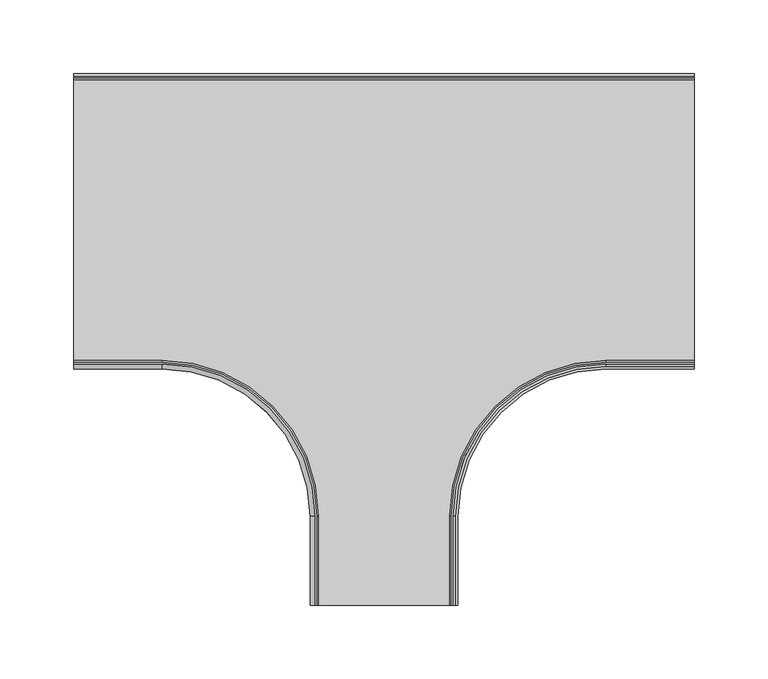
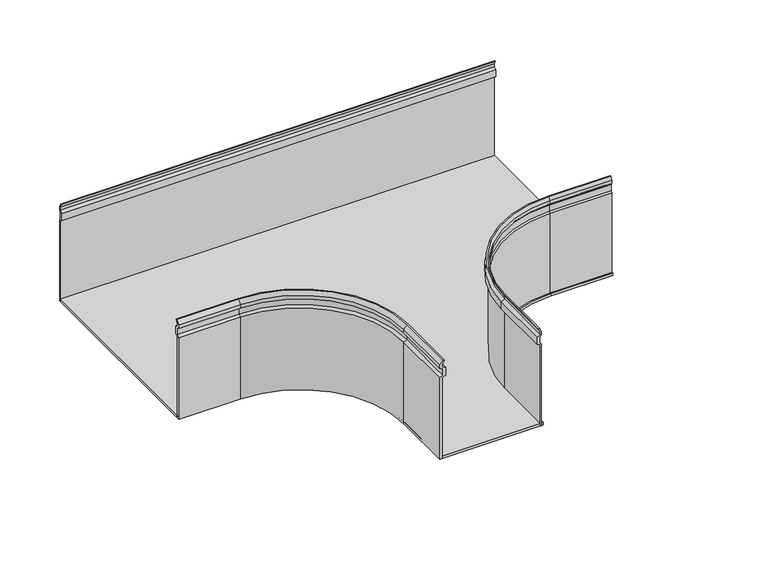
"""IFC4 building model written with IfcOpenShell, lengths in millimetres: cable carrier fitting geometry, AS_Add-on Tee_Derivation_Basortray : Basortray AS-GS."""

from ifc_helpers import new_model, si_unit, point, frame, frame_2d, origin, place, context, project, spatial, polyline, circle_curve, trimmed, segment, composite_curve, outline, extrude, source, transform, mapped, element, save
from ifc_brep_helpers import plane_surface, cylinder_surface, revolved_surface, advanced_brep


def cable_carrier_fitting_c155dae2(model_context):
    return source(origin(), model_context, "Body", "SolidModel", [
        extrude(outline(polyline([(99.2, -50.0), (99.2, 33.0765431), (96.1018079, 34.6347352), (96.1018079, 41.8828068), (99.2, 43.440999), (99.2, 46.3595405), (97.2463767, 50.0), (98.3683446, 50.0), (100.0, 46.7016419), (100.0, 43.0267854), (98.6418078, 41.4685933), (98.6418078, 35.0489488), (100.0, 33.4907566), (100.0, -50.0), (99.2, -50.0)])), frame((-210.0, 0.0, 0.0), z_axis=(1.0, 0.0, 0.0), x_axis=(0.0, 1.0, 0.0)), (0.0, 0.0, 1.0), 420.0),
        advanced_brep(
        [(47.46, -260.0, 33.0765431), (47.46, -260.0, -50.0), (48.26, -260.0, -50.0), (48.26, -260.0, 33.4907566), (46.9018079, -260.0, 35.0489488), (46.9018079, -260.0, 41.4685933), (48.26, -260.0, 43.0267854), (48.26, -260.0, 46.7016419), (46.6283446, -260.0, 50.0), (45.5063767, -260.0, 50.0), (47.46, -260.0, 46.3595405), (47.46, -260.0, 43.440999), (44.3618079, -260.0, 41.8828068), (44.3618079, -260.0, 34.6347352), (48.26, -200.0, -50.0), (48.26, -200.0, 33.4907566), (47.46, -200.0, 33.0765431), (47.46, -200.0, -50.0), (150.0, -98.26, 33.4907566), (150.0, -98.26, -50.0), (150.0, -97.46, -50.0), (150.0, -97.46, 33.0765431), (210.0, -97.46, 33.0765431), (210.0, -94.3618079, 34.6347352), (210.0, -94.3618079, 41.8828068), (210.0, -97.46, 43.440999), (210.0, -97.46, 46.3595405), (210.0, -95.5063767, 50.0), (210.0, -96.6283446, 50.0), (210.0, -98.26, 46.7016419), (210.0, -98.26, 43.0267854), (210.0, -96.9018079, 41.4685933), (210.0, -96.9018079, 35.0489488), (210.0, -98.26, 33.4907566), (210.0, -98.26, -50.0), (210.0, -97.46, -50.0), (44.3618079, -200.0, 34.6347352), (44.3618079, -200.0, 41.8828068), (47.46, -200.0, 43.440999), (47.46, -200.0, 46.3595405), (45.5063767, -200.0, 50.0), (46.6283446, -200.0, 50.0), (150.0, -96.6283446, 50.0), (150.0, -95.5063767, 50.0), (48.26, -200.0, 46.7016419), (48.26, -200.0, 43.0267854), (46.9018079, -200.0, 41.4685933), (46.9018079, -200.0, 35.0489488), (150.0, -94.3618079, 34.6347352), (150.0, -94.3618079, 41.8828068), (150.0, -97.46, 43.440999), (150.0, -97.46, 46.3595405), (150.0, -98.26, 46.7016419), (150.0, -98.26, 43.0267854), (150.0, -96.9018079, 41.4685933), (150.0, -96.9018079, 35.0489488)],
        [
            (0, 1),
            (1, 2),
            (2, 3),
            (3, 4),
            (4, 5),
            (5, 6),
            (6, 7),
            (7, 8),
            (8, 9),
            (9, 10),
            (10, 11),
            (11, 12),
            (12, 13),
            (13, 0),
            (2, 14),
            (14, 15),
            (15, 3),
            (0, 16),
            (16, 17),
            (17, 1),
            (18, 15, circle_curve(frame((150.0, -200.0, 33.4907566), z_axis=(0.0, 0.0, 1.0), x_axis=(-1.0, 0.0, 0.0)), 101.74)),
            (14, 19, circle_curve(frame((150.0, -200.0, -50.0), z_axis=(0.0, 0.0, -1.0), x_axis=(-1.0, 0.0, 0.0)), 101.74)),
            (19, 18),
            (20, 17, circle_curve(frame((150.0, -200.0, -50.0), z_axis=(0.0, 0.0, 1.0), x_axis=(-1.0, 0.0, 0.0)), 102.54)),
            (16, 21, circle_curve(frame((150.0, -200.0, 33.0765431), z_axis=(0.0, 0.0, -1.0), x_axis=(-1.0, 0.0, 0.0)), 102.54)),
            (21, 20),
            (22, 23),
            (23, 24),
            (24, 25),
            (25, 26),
            (26, 27),
            (27, 28),
            (28, 29),
            (29, 30),
            (30, 31),
            (31, 32),
            (32, 33),
            (33, 34),
            (34, 35),
            (35, 22),
            (19, 34),
            (33, 18),
            (21, 22),
            (35, 20),
            (13, 36),
            (36, 16),
            (12, 37),
            (37, 36),
            (11, 38),
            (38, 37),
            (10, 39),
            (39, 38),
            (9, 40),
            (40, 39),
            (8, 41),
            (41, 42, circle_curve(frame((150.0, -200.0, 50.0), z_axis=(0.0, 0.0, -1.0), x_axis=(-1.0, 0.0, 0.0)), 103.3716554)),
            (42, 28),
            (27, 43),
            (43, 40, circle_curve(frame((150.0, -200.0, 50.0), z_axis=(0.0, 0.0, 1.0), x_axis=(-1.0, 0.0, 0.0)), 104.4936233)),
            (7, 44),
            (44, 41),
            (6, 45),
            (45, 44),
            (5, 46),
            (46, 45),
            (4, 47),
            (47, 46),
            (15, 47),
            (36, 48, circle_curve(frame((150.0, -200.0, 34.6347352), z_axis=(0.0, 0.0, -1.0), x_axis=(-1.0, 0.0, 0.0)), 105.6381921)),
            (48, 21),
            (37, 49, circle_curve(frame((150.0, -200.0, 41.8828068), z_axis=(0.0, 0.0, -1.0), x_axis=(-1.0, 0.0, 0.0)), 105.6381921)),
            (49, 48),
            (38, 50, circle_curve(frame((150.0, -200.0, 43.440999), z_axis=(0.0, 0.0, -1.0), x_axis=(-1.0, 0.0, 0.0)), 102.54)),
            (50, 49),
            (39, 51, circle_curve(frame((150.0, -200.0, 46.3595405), z_axis=(0.0, 0.0, -1.0), x_axis=(-1.0, 0.0, 0.0)), 102.54)),
            (51, 50),
            (43, 51),
            (44, 52, circle_curve(frame((150.0, -200.0, 46.7016419), z_axis=(0.0, 0.0, -1.0), x_axis=(-1.0, 0.0, 0.0)), 101.74)),
            (52, 42),
            (45, 53, circle_curve(frame((150.0, -200.0, 43.0267854), z_axis=(0.0, 0.0, -1.0), x_axis=(-1.0, 0.0, 0.0)), 101.74)),
            (53, 52),
            (46, 54, circle_curve(frame((150.0, -200.0, 41.4685933), z_axis=(0.0, 0.0, -1.0), x_axis=(-1.0, 0.0, 0.0)), 103.0981921)),
            (54, 53),
            (47, 55, circle_curve(frame((150.0, -200.0, 35.0489488), z_axis=(0.0, 0.0, -1.0), x_axis=(-1.0, 0.0, 0.0)), 103.0981921)),
            (55, 54),
            (18, 55),
            (48, 23),
            (49, 24),
            (50, 25),
            (51, 26),
            (52, 29),
            (53, 30),
            (54, 31),
            (55, 32),
        ],
        [
            plane_surface(frame((47.46, -260.0, 0.0), z_axis=(0.0, -1.0, 0.0), x_axis=(0.0, 0.0, 1.0))),
            plane_surface(frame((48.26, -260.0, -50.0), z_axis=(1.0, 0.0, 0.0), x_axis=(0.0, 1.0, 0.0))),
            plane_surface(frame((47.46, -260.0, 33.0765431), z_axis=(-1.0, 0.0, 0.0), x_axis=(0.0, 1.0, 0.0))),
            revolved_surface(polyline([(48.260000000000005, -200.0, -50.0), (48.260000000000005, -200.0, 33.4907566)]), (150.0, -200.0, 0.0), (0.0, 0.0, -1.0)),
            cylinder_surface(frame((150.0, -200.0, 0.0), z_axis=(0.0, 0.0, -1.0), x_axis=(-1.0, 0.0, 0.0)), 102.54),
            plane_surface(frame((210.0, -97.46, 0.0), z_axis=(1.0, 0.0, 0.0), x_axis=(0.0, 0.0, 1.0))),
            plane_surface(frame((150.0, -98.26, -50.0), z_axis=(0.0, -1.0, 0.0), x_axis=(1.0, 0.0, 0.0))),
            plane_surface(frame((150.0, -97.46, 33.0765431), z_axis=(0.0, 1.0, 0.0), x_axis=(1.0, 0.0, 0.0))),
            plane_surface(frame((44.3618079, -260.0, 34.6347352), z_axis=(-0.44931067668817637, 0.0, -0.8933755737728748), x_axis=(0.0, 1.0, 0.0))),
            plane_surface(frame((44.3618079, -260.0, 41.8828068), z_axis=(-1.0, 0.0, 0.0), x_axis=(0.0, 1.0, 0.0))),
            plane_surface(frame((47.46, -260.0, 43.440999), z_axis=(-0.44931067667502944, 0.0, 0.8933755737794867), x_axis=(0.0, 1.0, 0.0))),
            plane_surface(frame((47.46, -260.0, 46.3595405), z_axis=(-1.0, 0.0, 0.0), x_axis=(0.0, 1.0, 0.0))),
            plane_surface(frame((45.5063767, -260.0, 50.0), z_axis=(-0.8811394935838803, 0.0, -0.47285641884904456), x_axis=(0.0, 1.0, 0.0))),
            plane_surface(frame((46.6283446, -260.0, 50.0), z_axis=(0.0, 0.0, 1.0), x_axis=(0.0, 1.0, 0.0))),
            plane_surface(frame((48.26, -260.0, 46.7016419), z_axis=(0.896323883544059, 0.0, 0.4433999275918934), x_axis=(0.0, 1.0, 0.0))),
            plane_surface(frame((48.26, -260.0, 43.0267854), z_axis=(1.0, 0.0, 0.0), x_axis=(0.0, 1.0, 0.0))),
            plane_surface(frame((46.9018079, -260.0, 41.4685933), z_axis=(0.753828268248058, 0.0, -0.6570714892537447), x_axis=(0.0, 1.0, 0.0))),
            plane_surface(frame((46.9018079, -260.0, 35.0489488), z_axis=(1.0, 0.0, 0.0), x_axis=(0.0, 1.0, 0.0))),
            plane_surface(frame((48.26, -260.0, 33.4907566), z_axis=(0.7538282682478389, 0.0, 0.6570714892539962), x_axis=(0.0, 1.0, 0.0))),
            revolved_surface(polyline([(44.3618079, -200.0, 34.6347352), (47.46, -200.0, 33.0765431)]), (150.0, -200.0, 0.0), (0.0, 0.0, -1.0)),
            cylinder_surface(frame((150.0, -200.0, 0.0), z_axis=(0.0, 0.0, -1.0), x_axis=(-1.0, 0.0, 0.0)), 105.6381921),
            revolved_surface(polyline([(47.46, -200.0, 43.440999), (44.3618079, -200.0, 41.8828068)]), (150.0, -200.0, 0.0), (0.0, 0.0, -1.0)),
            revolved_surface(polyline([(45.5063767, -200.0, 50.0), (47.46, -200.0, 46.3595405)]), (150.0, -200.0, 0.0), (0.0, 0.0, -1.0)),
            revolved_surface(polyline([(48.26, -200.0, 46.7016419), (46.6283446, -200.0, 50.0)]), (150.0, -200.0, 0.0), (0.0, 0.0, -1.0)),
            revolved_surface(polyline([(48.260000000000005, -200.0, 43.0267854), (48.260000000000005, -200.0, 46.7016419)]), (150.0, -200.0, 0.0), (0.0, 0.0, -1.0)),
            revolved_surface(polyline([(46.9018079, -200.0, 41.4685933), (48.26, -200.0, 43.0267854)]), (150.0, -200.0, 0.0), (0.0, 0.0, -1.0)),
            revolved_surface(polyline([(46.901807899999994, -200.0, 35.0489488), (46.901807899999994, -200.0, 41.4685933)]), (150.0, -200.0, 0.0), (0.0, 0.0, -1.0)),
            revolved_surface(polyline([(48.26, -200.0, 33.4907566), (46.9018079, -200.0, 35.0489488)]), (150.0, -200.0, 0.0), (0.0, 0.0, -1.0)),
            plane_surface(frame((150.0, -94.3618079, 34.6347352), z_axis=(0.0, 0.44931067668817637, -0.8933755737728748), x_axis=(1.0, 0.0, 0.0))),
            plane_surface(frame((150.0, -94.3618079, 41.8828068), z_axis=(0.0, 1.0, 0.0), x_axis=(1.0, 0.0, 0.0))),
            plane_surface(frame((150.0, -97.46, 43.440999), z_axis=(0.0, 0.44931067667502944, 0.8933755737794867), x_axis=(1.0, 0.0, 0.0))),
            plane_surface(frame((150.0, -97.46, 46.3595405), z_axis=(0.0, 1.0, 0.0), x_axis=(1.0, 0.0, 0.0))),
            plane_surface(frame((150.0, -95.5063767, 50.0), z_axis=(0.0, 0.8811394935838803, -0.47285641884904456), x_axis=(1.0, 0.0, 0.0))),
            plane_surface(frame((150.0, -98.26, 46.7016419), z_axis=(0.0, -0.896323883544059, 0.4433999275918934), x_axis=(1.0, 0.0, 0.0))),
            plane_surface(frame((150.0, -98.26, 43.0267854), z_axis=(0.0, -1.0, 0.0), x_axis=(1.0, 0.0, 0.0))),
            plane_surface(frame((150.0, -96.9018079, 41.4685933), z_axis=(0.0, -0.753828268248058, -0.6570714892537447), x_axis=(1.0, 0.0, 0.0))),
            plane_surface(frame((150.0, -96.9018079, 35.0489488), z_axis=(0.0, -1.0, 0.0), x_axis=(1.0, 0.0, 0.0))),
            plane_surface(frame((150.0, -98.26, 33.4907566), z_axis=(0.0, -0.7538282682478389, 0.6570714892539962), x_axis=(1.0, 0.0, 0.0))),
            plane_surface(frame((47.46, -260.0, -50.0), z_axis=(0.0, 0.0, -1.0), x_axis=(0.0, 1.0, 0.0))),
        ],
        [
            (0, [[1, 2, 3, 4, 5, 6, 7, 8, 9, 10, 11, 12, 13, 14]]),
            (1, [[-3, 15, 16, 17]]),
            (2, [[-1, 18, 19, 20]]),
            (3, [[21, -16, 22, 23]]),
            (4, [[24, -19, 25, 26]]),
            (5, [[27, 28, 29, 30, 31, 32, 33, 34, 35, 36, 37, 38, 39, 40]]),
            (6, [[-23, 41, -38, 42]]),
            (7, [[-26, 43, -40, 44]]),
            (8, [[-14, 45, 46, -18]]),
            (9, [[-13, 47, 48, -45]]),
            (10, [[-12, 49, 50, -47]]),
            (11, [[-11, 51, 52, -49]]),
            (12, [[-10, 53, 54, -51]]),
            (13, [[-9, 55, 56, 57, -32, 58, 59, -53]]),
            (14, [[-8, 60, 61, -55]]),
            (15, [[-7, 62, 63, -60]]),
            (16, [[-6, 64, 65, -62]]),
            (17, [[-5, 66, 67, -64]]),
            (18, [[-4, -17, 68, -66]]),
            (19, [[-25, -46, 69, 70]]),
            (20, [[-69, -48, 71, 72]]),
            (21, [[-71, -50, 73, 74]]),
            (4, [[-73, -52, 75, 76]]),
            (22, [[-75, -54, -59, 77]]),
            (23, [[-56, -61, 78, 79]]),
            (24, [[-78, -63, 80, 81]]),
            (25, [[-80, -65, 82, 83]]),
            (26, [[-82, -67, 84, 85]]),
            (27, [[-84, -68, -21, 86]]),
            (28, [[-70, 87, -27, -43]]),
            (29, [[-72, 88, -28, -87]]),
            (30, [[-74, 89, -29, -88]]),
            (31, [[-76, 90, -30, -89]]),
            (32, [[-77, -58, -31, -90]]),
            (33, [[-79, 91, -33, -57]]),
            (34, [[-81, 92, -34, -91]]),
            (35, [[-83, 93, -35, -92]]),
            (36, [[-85, 94, -36, -93]]),
            (37, [[-86, -42, -37, -94]]),
            (38, [[-2, -20, -24, -44, -39, -41, -22, -15]]),
        ],
    ),
        advanced_brep(
        [(-47.46, -260.0, 33.0765431), (-44.3618079, -260.0, 34.6347352), (-44.3618079, -260.0, 41.8828068), (-47.46, -260.0, 43.440999), (-47.46, -260.0, 46.3595405), (-45.5063767, -260.0, 50.0), (-46.6283446, -260.0, 50.0), (-50.0, -260.0, 46.7016419), (-50.0, -260.0, 43.0267854), (-46.9018079, -260.0, 41.4685933), (-46.9018079, -260.0, 35.0489488), (-50.0, -260.0, 33.4907566), (-50.0, -260.0, -50.0), (-47.46, -260.0, -50.0), (-50.0, -200.0, 33.4907566), (-50.0, -200.0, -50.0), (-47.46, -200.0, -50.0), (-47.46, -200.0, 33.0765431), (-150.0, -100.0, -50.0), (-150.0, -100.0, 33.4907566), (-150.0, -97.46, 33.0765431), (-150.0, -97.46, -50.0), (-210.0, -97.46, 33.0765431), (-210.0, -97.46, -50.0), (-210.0, -100.0, -50.0), (-210.0, -100.0, 33.4907566), (-210.0, -96.9018079, 35.0489488), (-210.0, -96.9018079, 41.4685933), (-210.0, -100.0, 43.0267854), (-210.0, -100.0, 46.7016419), (-210.0, -96.6283446, 50.0), (-210.0, -95.5063767, 50.0), (-210.0, -97.46, 46.3595405), (-210.0, -97.46, 43.440999), (-210.0, -94.3618079, 41.8828068), (-210.0, -94.3618079, 34.6347352), (-44.3618079, -200.0, 34.6347352), (-44.3618079, -200.0, 41.8828068), (-47.46, -200.0, 43.440999), (-47.46, -200.0, 46.3595405), (-45.5063767, -200.0, 50.0), (-150.0, -95.5063767, 50.0), (-150.0, -96.6283446, 50.0), (-46.6283446, -200.0, 50.0), (-50.0, -200.0, 46.7016419), (-50.0, -200.0, 43.0267854), (-46.9018079, -200.0, 41.4685933), (-46.9018079, -200.0, 35.0489488), (-150.0, -94.3618079, 34.6347352), (-150.0, -94.3618079, 41.8828068), (-150.0, -97.46, 43.440999), (-150.0, -97.46, 46.3595405), (-150.0, -100.0, 46.7016419), (-150.0, -100.0, 43.0267854), (-150.0, -96.9018079, 41.4685933), (-150.0, -96.9018079, 35.0489488)],
        [
            (0, 1),
            (1, 2),
            (2, 3),
            (3, 4),
            (4, 5),
            (5, 6),
            (6, 7),
            (7, 8),
            (8, 9),
            (9, 10),
            (10, 11),
            (11, 12),
            (12, 13),
            (13, 0),
            (11, 14),
            (14, 15),
            (15, 12),
            (13, 16),
            (16, 17),
            (17, 0),
            (18, 15, circle_curve(frame((-150.0, -200.0, -50.0), z_axis=(0.0, 0.0, -1.0), x_axis=(1.0, 0.0, 0.0)), 100.0)),
            (14, 19, circle_curve(frame((-150.0, -200.0, 33.4907566), z_axis=(0.0, 0.0, 1.0), x_axis=(1.0, 0.0, 0.0)), 100.0)),
            (19, 18),
            (20, 17, circle_curve(frame((-150.0, -200.0, 33.0765431), z_axis=(0.0, 0.0, -1.0), x_axis=(1.0, 0.0, 0.0)), 102.54)),
            (16, 21, circle_curve(frame((-150.0, -200.0, -50.0), z_axis=(0.0, 0.0, 1.0), x_axis=(1.0, 0.0, 0.0)), 102.54)),
            (21, 20),
            (22, 23),
            (23, 24),
            (24, 25),
            (25, 26),
            (26, 27),
            (27, 28),
            (28, 29),
            (29, 30),
            (30, 31),
            (31, 32),
            (32, 33),
            (33, 34),
            (34, 35),
            (35, 22),
            (19, 25),
            (24, 18),
            (21, 23),
            (22, 20),
            (17, 36),
            (36, 1),
            (36, 37),
            (37, 2),
            (37, 38),
            (38, 3),
            (38, 39),
            (39, 4),
            (39, 40),
            (40, 5),
            (40, 41, circle_curve(frame((-150.0, -200.0, 50.0), z_axis=(0.0, 0.0, 1.0), x_axis=(1.0, 0.0, 0.0)), 104.4936233)),
            (41, 31),
            (30, 42),
            (42, 43, circle_curve(frame((-150.0, -200.0, 50.0), z_axis=(0.0, 0.0, -1.0), x_axis=(1.0, 0.0, 0.0)), 103.3716554)),
            (43, 6),
            (43, 44),
            (44, 7),
            (44, 45),
            (45, 8),
            (45, 46),
            (46, 9),
            (46, 47),
            (47, 10),
            (47, 14),
            (48, 36, circle_curve(frame((-150.0, -200.0, 34.6347352), z_axis=(0.0, 0.0, -1.0), x_axis=(1.0, 0.0, 0.0)), 105.6381921)),
            (20, 48),
            (49, 37, circle_curve(frame((-150.0, -200.0, 41.8828068), z_axis=(0.0, 0.0, -1.0), x_axis=(1.0, 0.0, 0.0)), 105.6381921)),
            (48, 49),
            (50, 38, circle_curve(frame((-150.0, -200.0, 43.440999), z_axis=(0.0, 0.0, -1.0), x_axis=(1.0, 0.0, 0.0)), 102.54)),
            (49, 50),
            (51, 39, circle_curve(frame((-150.0, -200.0, 46.3595405), z_axis=(0.0, 0.0, -1.0), x_axis=(1.0, 0.0, 0.0)), 102.54)),
            (50, 51),
            (51, 41),
            (52, 44, circle_curve(frame((-150.0, -200.0, 46.7016419), z_axis=(0.0, 0.0, -1.0), x_axis=(1.0, 0.0, 0.0)), 100.0)),
            (42, 52),
            (53, 45, circle_curve(frame((-150.0, -200.0, 43.0267854), z_axis=(0.0, 0.0, -1.0), x_axis=(1.0, 0.0, 0.0)), 100.0)),
            (52, 53),
            (54, 46, circle_curve(frame((-150.0, -200.0, 41.4685933), z_axis=(0.0, 0.0, -1.0), x_axis=(1.0, 0.0, 0.0)), 103.0981921)),
            (53, 54),
            (55, 47, circle_curve(frame((-150.0, -200.0, 35.0489488), z_axis=(0.0, 0.0, -1.0), x_axis=(1.0, 0.0, 0.0)), 103.0981921)),
            (54, 55),
            (55, 19),
            (35, 48),
            (34, 49),
            (33, 50),
            (32, 51),
            (29, 52),
            (28, 53),
            (27, 54),
            (26, 55),
        ],
        [
            plane_surface(frame((-47.46, -260.0, 0.0), z_axis=(0.0, -1.0, 0.0), x_axis=(0.0, 0.0, 1.0))),
            plane_surface(frame((-50.0, -260.0, 33.4907566), z_axis=(-1.0, 0.0, 0.0), x_axis=(0.0, 1.0, 0.0))),
            plane_surface(frame((-47.46, -260.0, -50.0), z_axis=(1.0, 0.0, 0.0), x_axis=(0.0, 1.0, 0.0))),
            revolved_surface(polyline([(-50.0, -200.0, 33.4907566), (-50.0, -200.0, -50.0)]), (-150.0, -200.0, 0.0), (0.0, 0.0, 1.0)),
            cylinder_surface(frame((-150.0, -200.0, 0.0), z_axis=(0.0, 0.0, 1.0), x_axis=(1.0, 0.0, 0.0)), 102.54),
            plane_surface(frame((-210.0, -97.46, 0.0), z_axis=(-1.0, 0.0, 0.0), x_axis=(0.0, 0.0, 1.0))),
            plane_surface(frame((-150.0, -100.0, 33.4907566), z_axis=(0.0, -1.0, 0.0), x_axis=(-1.0, 0.0, 0.0))),
            plane_surface(frame((-150.0, -97.46, -50.0), z_axis=(0.0, 1.0, 0.0), x_axis=(-1.0, 0.0, 0.0))),
            plane_surface(frame((-47.46, -260.0, 33.0765431), z_axis=(0.44931067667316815, 0.0, -0.893375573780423), x_axis=(0.0, 1.0, 0.0))),
            plane_surface(frame((-44.3618079, -260.0, 34.6347352), z_axis=(1.0, 0.0, 0.0), x_axis=(0.0, 1.0, 0.0))),
            plane_surface(frame((-44.3618079, -260.0, 41.8828068), z_axis=(0.4493106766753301, 0.0, 0.8933755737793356), x_axis=(0.0, 1.0, 0.0))),
            plane_surface(frame((-47.46, -260.0, 43.440999), z_axis=(1.0, 0.0, 0.0), x_axis=(0.0, 1.0, 0.0))),
            plane_surface(frame((-47.46, -260.0, 46.3595405), z_axis=(0.8811394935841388, 0.0, -0.47285641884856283), x_axis=(0.0, 1.0, 0.0))),
            plane_surface(frame((-45.5063767, -260.0, 50.0), z_axis=(0.0, 0.0, 1.0), x_axis=(0.0, 1.0, 0.0))),
            plane_surface(frame((-46.6283446, -260.0, 50.0), z_axis=(-0.6992941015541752, 0.0, 0.7148340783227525), x_axis=(0.0, 1.0, 0.0))),
            plane_surface(frame((-50.0, -260.0, 46.7016419), z_axis=(-1.0, 0.0, 0.0), x_axis=(0.0, 1.0, 0.0))),
            plane_surface(frame((-50.0, -260.0, 43.0267854), z_axis=(-0.449310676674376, 0.0, -0.8933755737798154), x_axis=(0.0, 1.0, 0.0))),
            plane_surface(frame((-46.9018079, -260.0, 41.4685933), z_axis=(-1.0, 0.0, 0.0), x_axis=(0.0, 1.0, 0.0))),
            plane_surface(frame((-46.9018079, -260.0, 35.0489488), z_axis=(-0.44931067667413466, 0.0, 0.8933755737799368), x_axis=(0.0, 1.0, 0.0))),
            revolved_surface(polyline([(-47.46, -200.0, 33.0765431), (-44.3618079, -200.0, 34.6347352)]), (-150.0, -200.0, 0.0), (0.0, 0.0, 1.0)),
            cylinder_surface(frame((-150.0, -200.0, 0.0), z_axis=(0.0, 0.0, 1.0), x_axis=(1.0, 0.0, 0.0)), 105.6381921),
            revolved_surface(polyline([(-44.3618079, -200.0, 41.8828068), (-47.46, -200.0, 43.440999)]), (-150.0, -200.0, 0.0), (0.0, 0.0, 1.0)),
            revolved_surface(polyline([(-47.46, -200.0, 46.3595405), (-45.5063767, -200.0, 50.0)]), (-150.0, -200.0, 0.0), (0.0, 0.0, 1.0)),
            revolved_surface(polyline([(-46.6283446, -200.0, 50.0), (-50.0, -200.0, 46.7016419)]), (-150.0, -200.0, 0.0), (0.0, 0.0, 1.0)),
            revolved_surface(polyline([(-50.0, -200.0, 46.7016419), (-50.0, -200.0, 43.0267854)]), (-150.0, -200.0, 0.0), (0.0, 0.0, 1.0)),
            revolved_surface(polyline([(-50.0, -200.0, 43.0267854), (-46.9018079, -200.0, 41.4685933)]), (-150.0, -200.0, 0.0), (0.0, 0.0, 1.0)),
            revolved_surface(polyline([(-46.901807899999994, -200.0, 41.4685933), (-46.901807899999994, -200.0, 35.0489488)]), (-150.0, -200.0, 0.0), (0.0, 0.0, 1.0)),
            revolved_surface(polyline([(-46.9018079, -200.0, 35.0489488), (-50.0, -200.0, 33.4907566)]), (-150.0, -200.0, 0.0), (0.0, 0.0, 1.0)),
            plane_surface(frame((-150.0, -97.46, 33.0765431), z_axis=(0.0, 0.44931067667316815, -0.893375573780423), x_axis=(-1.0, 0.0, 0.0))),
            plane_surface(frame((-150.0, -94.3618079, 34.6347352), z_axis=(0.0, 1.0, 0.0), x_axis=(-1.0, 0.0, 0.0))),
            plane_surface(frame((-150.0, -94.3618079, 41.8828068), z_axis=(0.0, 0.4493106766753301, 0.8933755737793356), x_axis=(-1.0, 0.0, 0.0))),
            plane_surface(frame((-150.0, -97.46, 43.440999), z_axis=(0.0, 1.0, 0.0), x_axis=(-1.0, 0.0, 0.0))),
            plane_surface(frame((-150.0, -97.46, 46.3595405), z_axis=(0.0, 0.8811394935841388, -0.47285641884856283), x_axis=(-1.0, 0.0, 0.0))),
            plane_surface(frame((-150.0, -96.6283446, 50.0), z_axis=(0.0, -0.6992941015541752, 0.7148340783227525), x_axis=(-1.0, 0.0, 0.0))),
            plane_surface(frame((-150.0, -100.0, 46.7016419), z_axis=(0.0, -1.0, 0.0), x_axis=(-1.0, 0.0, 0.0))),
            plane_surface(frame((-150.0, -100.0, 43.0267854), z_axis=(0.0, -0.449310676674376, -0.8933755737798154), x_axis=(-1.0, 0.0, 0.0))),
            plane_surface(frame((-150.0, -96.9018079, 41.4685933), z_axis=(0.0, -1.0, 0.0), x_axis=(-1.0, 0.0, 0.0))),
            plane_surface(frame((-150.0, -96.9018079, 35.0489488), z_axis=(0.0, -0.44931067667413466, 0.8933755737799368), x_axis=(-1.0, 0.0, 0.0))),
            plane_surface(frame((-50.0, -260.0, -50.0), z_axis=(0.0, 0.0, -1.0), x_axis=(0.0, 1.0, 0.0))),
        ],
        [
            (0, [[1, 2, 3, 4, 5, 6, 7, 8, 9, 10, 11, 12, 13, 14]]),
            (1, [[-12, 15, 16, 17]]),
            (2, [[-14, 18, 19, 20]]),
            (3, [[21, -16, 22, 23]]),
            (4, [[24, -19, 25, 26]]),
            (5, [[27, 28, 29, 30, 31, 32, 33, 34, 35, 36, 37, 38, 39, 40]]),
            (6, [[-23, 41, -29, 42]]),
            (7, [[-26, 43, -27, 44]]),
            (8, [[-1, -20, 45, 46]]),
            (9, [[-2, -46, 47, 48]]),
            (10, [[-3, -48, 49, 50]]),
            (11, [[-4, -50, 51, 52]]),
            (12, [[-5, -52, 53, 54]]),
            (13, [[-6, -54, 55, 56, -35, 57, 58, 59]]),
            (14, [[-7, -59, 60, 61]]),
            (15, [[-8, -61, 62, 63]]),
            (16, [[-9, -63, 64, 65]]),
            (17, [[-10, -65, 66, 67]]),
            (18, [[-11, -67, 68, -15]]),
            (19, [[69, -45, -24, 70]]),
            (20, [[71, -47, -69, 72]]),
            (21, [[73, -49, -71, 74]]),
            (4, [[75, -51, -73, 76]]),
            (22, [[-55, -53, -75, 77]]),
            (23, [[78, -60, -58, 79]]),
            (24, [[80, -62, -78, 81]]),
            (25, [[82, -64, -80, 83]]),
            (26, [[84, -66, -82, 85]]),
            (27, [[-22, -68, -84, 86]]),
            (28, [[-70, -44, -40, 87]]),
            (29, [[-72, -87, -39, 88]]),
            (30, [[-74, -88, -38, 89]]),
            (31, [[-76, -89, -37, 90]]),
            (32, [[-77, -90, -36, -56]]),
            (33, [[-79, -57, -34, 91]]),
            (34, [[-81, -91, -33, 92]]),
            (35, [[-83, -92, -32, 93]]),
            (36, [[-85, -93, -31, 94]]),
            (37, [[-86, -94, -30, -41]]),
            (38, [[-13, -17, -21, -42, -28, -43, -25, -18]]),
        ],
    ),
        extrude(outline(composite_curve([segment(trimmed(circle_curve(frame_2d((-150.0, -200.0)), 100.0), [point((-50.0, -200.0))], [point((-150.0, -100.0))], True, "CARTESIAN"), True, "CONTINUOUS"), segment(polyline([(-150.0, -100.0), (-210.0, -100.0), (-210.0, 100.0), (210.0, 100.0), (210.0, -100.0), (150.0, -100.0)]), True, "CONTINUOUS"), segment(trimmed(circle_curve(frame_2d((150.0, -200.0)), 100.0), [point((150.0, -100.0))], [point((50.0, -200.0))], True, "CARTESIAN"), True, "CONTINUOUS"), segment(polyline([(50.0, -200.0), (50.0, -260.0), (-50.0, -260.0), (-50.0, -200.0)]), True, "CONTINUOUS")], self_intersect=False)), frame((0.0, 0.0, -50.0), z_axis=(0.0, 0.0, 1.0), x_axis=(1.0, 0.0, 0.0)), (0.0, 0.0, 1.0), 2.54),
    ])


if __name__ == "__main__":
    model = new_model("IFC4")
    model_context = context("Model", 3, world=origin())
    ifc_project = project(units=[si_unit("LENGTHUNIT", "METRE", prefix="MILLI")], contexts=[model_context])
    site = spatial("IfcSite", under=ifc_project)
    building = spatial("IfcBuilding", under=site)
    placement = place(None, origin())
    cable_carrier_fitting_shape = cable_carrier_fitting_c155dae2(model_context)
    element("IfcCableCarrierFitting", 1, ObjectType="AS_Add-on Tee_Derivation_Basortray : Basortray AS-GS", at=placement, inside=building, context=model_context, shape_type="MappedRepresentation", body=[
        mapped(cable_carrier_fitting_shape, transform((0.0, 0.0, 0.0), x_axis=(1.0, 0.0, 0.0), y_axis=(0.0, 1.0, 0.0), z_axis=(0.0, 0.0, 1.0))),
    ])
    save(model, "model.ifc")
